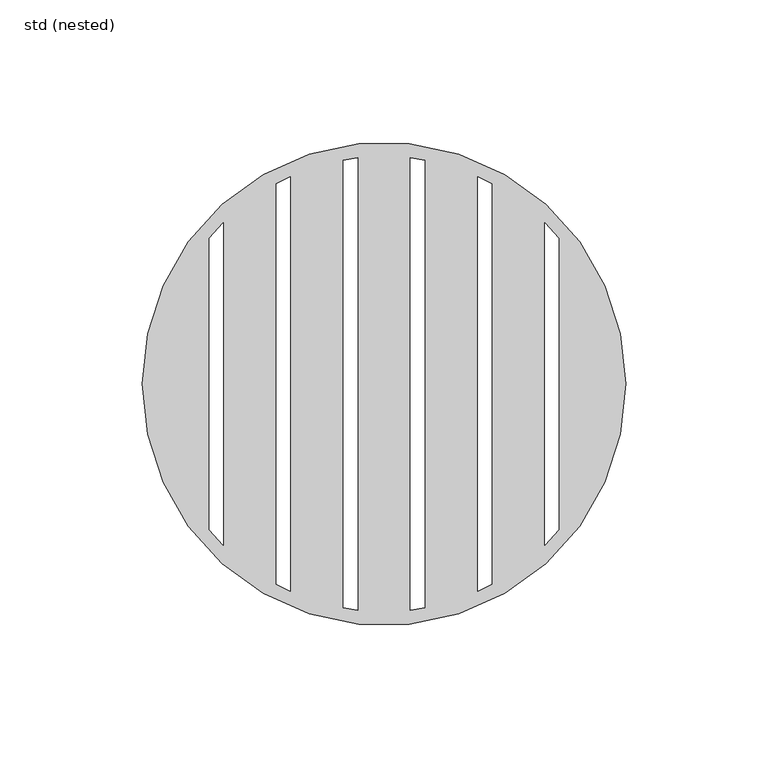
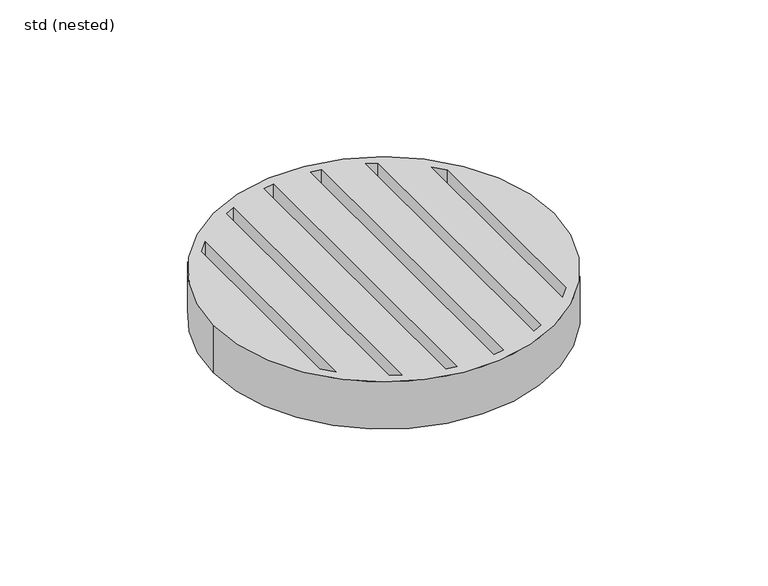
"""IFC4 building model written with IfcOpenShell, lengths in millimetres: sanitary terminal geometry, ZZZ_do not use_PF_ST_UN_round grating for vinyl top_ACO : std (nested)."""

import ifcopenshell
import ifcopenshell.guid

model = None  # the IFC model being written
_history = None  # IfcOwnerHistory: only IFC2X3 demands one
_inside = {}  # id of a spatial element -> (the spatial element, [elements in it])
_under = {}  # id of a project, library or spatial element -> (it, [spatial elements below it])
_declared = {}  # id of a project -> (the project, [libraries it declares])
_typed = {}  # id of a type object -> (the type object, [elements of that type])
_made_of = {}  # id of a material, layer set ... -> (it, [elements and type objects made of it])


def new_model(schema):
    """Start an empty IFC model of exactly this schema.

    Asked for "IFC4X3", IfcOpenShell would pick the latest addendum, in which some entities
    have other attributes; the version numbers below select the first issue.
    IFC2X3 requires an IfcOwnerHistory on every rooted entity: one is made here for all.
    """
    global model, _history
    if schema == "IFC4X3":
        model = ifcopenshell.file(schema_version=(4, 3, 0, 0))
    else:
        model = ifcopenshell.file(schema=schema)
    _inside.clear()
    _under.clear()
    _declared.clear()
    _typed.clear()
    _made_of.clear()
    _history = None
    if model.schema == "IFC2X3":
        org = make("IfcOrganization", Name="unknown")
        user = make(
            "IfcPersonAndOrganization",
            ThePerson=make("IfcPerson", FamilyName="unknown"),
            TheOrganization=org,
        )
        app = make(
            "IfcApplication",
            ApplicationDeveloper=org,
            Version="unknown",
            ApplicationFullName="unknown",
            ApplicationIdentifier="unknown",
        )
        _history = make(
            "IfcOwnerHistory",
            OwningUser=user,
            OwningApplication=app,
            ChangeAction="ADDED",
            CreationDate=0,
        )
    return model


def make(cls, **values):
    """One entity of the class cls with the attributes given. An attribute that is None is left unset."""
    return model.create_entity(
        cls, **{name: value for name, value in values.items() if value is not None}
    )


def rooted(cls, **values):
    """An entity with a GlobalId (a new one), such as an element, a storey or a relation."""
    return make(cls, GlobalId=ifcopenshell.guid.new(), OwnerHistory=_history, **values)


def si_unit(unit_type, name, prefix=None):
    """IfcSIUnit, for example si_unit("LENGTHUNIT", "METRE", prefix="MILLI")."""
    return make("IfcSIUnit", UnitType=unit_type, Prefix=prefix, Name=name)


def assignment(units):
    """IfcUnitAssignment: the units of a project."""
    return None if units is None else make("IfcUnitAssignment", Units=units)


def point(xyz):
    """IfcCartesianPoint."""
    return None if xyz is None else make("IfcCartesianPoint", Coordinates=xyz)


def direction(xyz):
    """IfcDirection."""
    return None if xyz is None else make("IfcDirection", DirectionRatios=xyz)


def frame(location, z_axis=None, x_axis=None):
    """IfcAxis2Placement3D, a coordinate frame: its origin and axes. An axis left out is left unset."""
    return make(
        "IfcAxis2Placement3D",
        Location=point(location),
        Axis=direction(z_axis),
        RefDirection=direction(x_axis),
    )


def frame_2d(location, x_axis=None):
    """IfcAxis2Placement2D, a coordinate frame in the plane: its origin and x axis."""
    return make(
        "IfcAxis2Placement2D", Location=point(location), RefDirection=direction(x_axis)
    )


def origin():
    """The frame at (0, 0, 0) with its axes left unset."""
    return frame((0.0, 0.0, 0.0))


def origin_2d():
    """The frame at (0, 0) in the plane with its x axis left unset."""
    return frame_2d((0.0, 0.0))


def place(relative_to, where):
    """IfcLocalPlacement: puts the frame where relative to a parent placement (None: the world)."""
    return make(
        "IfcLocalPlacement", PlacementRelTo=relative_to, RelativePlacement=where
    )


def context(
    kind, dimensions, precision=None, world=None, true_north=None, identifier=None
):
    """IfcGeometricRepresentationContext, for example the 3D "Model" context."""
    return make(
        "IfcGeometricRepresentationContext",
        ContextIdentifier=identifier,
        ContextType=kind,
        CoordinateSpaceDimension=dimensions,
        Precision=precision,
        WorldCoordinateSystem=world,
        TrueNorth=true_north,
    )


def project(units=None, contexts=None):
    """IfcProject with its units and contexts."""
    return rooted(
        "IfcProject",
        Name="project",
        RepresentationContexts=contexts,
        UnitsInContext=assignment(units),
    )


def spatial(cls, under=None, at=None, **own):
    """A site, building, storey or space (cls), placed at a placement, below another one or the project."""
    s = rooted(cls, ObjectPlacement=at, **own)
    if under is not None:
        _under.setdefault(under.id(), (under, []))[1].append(s)
    return s


def polyline(points):
    """IfcPolyline through the points."""
    return make("IfcPolyline", Points=[point(p) for p in points])


def circle_curve(where, radius):
    """IfcCircle in the frame where."""
    return make("IfcCircle", Position=where, Radius=radius)


def trimmed(basis, trim1, trim2, sense, master):
    """IfcTrimmedCurve: the piece of a basis curve between two trims."""
    return make(
        "IfcTrimmedCurve",
        BasisCurve=basis,
        Trim1=trim1,
        Trim2=trim2,
        SenseAgreement=sense,
        MasterRepresentation=master,
    )


def segment(curve, same_sense, transition):
    """IfcCompositeCurveSegment."""
    return make(
        "IfcCompositeCurveSegment",
        Transition=transition,
        SameSense=same_sense,
        ParentCurve=curve,
    )


def composite_curve(segments, self_intersect=None):
    """IfcCompositeCurve: segments joined end to end."""
    return make("IfcCompositeCurve", Segments=segments, SelfIntersect=self_intersect)


def outline(outer, holes=None, kind="AREA"):
    """IfcArbitraryClosedProfileDef: a profile drawn as a closed curve; with holes, ...WithVoids."""
    if holes is None:
        return make("IfcArbitraryClosedProfileDef", ProfileType=kind, OuterCurve=outer)
    return make(
        "IfcArbitraryProfileDefWithVoids",
        ProfileType=kind,
        OuterCurve=outer,
        InnerCurves=holes,
    )


def extrude(swept, where, along, depth):
    """IfcExtrudedAreaSolid: the profile swept, set in the frame where, extruded along a direction by depth."""
    return make(
        "IfcExtrudedAreaSolid",
        SweptArea=swept,
        Position=where,
        ExtrudedDirection=direction(along),
        Depth=depth,
    )


def shape(context_of_items, identifier, shape_type, items):
    """IfcShapeRepresentation: the items that make up one representation, for example the "Body"."""
    return make(
        "IfcShapeRepresentation",
        ContextOfItems=context_of_items,
        RepresentationIdentifier=identifier,
        RepresentationType=shape_type,
        Items=items,
    )


def source(mapping_origin, context_of_items, identifier, shape_type, items):
    """IfcRepresentationMap: a shape defined once, which mapped items show again and again."""
    return make(
        "IfcRepresentationMap",
        MappingOrigin=mapping_origin,
        MappedRepresentation=shape(context_of_items, identifier, shape_type, items),
    )


def transform(
    local_origin,
    x_axis=None,
    y_axis=None,
    z_axis=None,
    scale=None,
    scale2=None,
    scale3=None,
    uniform=True,
):
    """IfcCartesianTransformationOperator3D, or its non-uniform kind. x_axis, y_axis, z_axis: its Axis1, 2, 3."""
    if uniform:
        return make(
            "IfcCartesianTransformationOperator3D",
            Axis1=direction(x_axis),
            Axis2=direction(y_axis),
            LocalOrigin=point(local_origin),
            Scale=scale,
            Axis3=direction(z_axis),
        )
    return make(
        "IfcCartesianTransformationOperator3DnonUniform",
        Axis1=direction(x_axis),
        Axis2=direction(y_axis),
        LocalOrigin=point(local_origin),
        Scale=scale,
        Axis3=direction(z_axis),
        Scale2=scale2,
        Scale3=scale3,
    )


def mapped(mapping_source, mapping_target):
    """IfcMappedItem: shows the shape of a source again, moved by a transform."""
    return make(
        "IfcMappedItem", MappingSource=mapping_source, MappingTarget=mapping_target
    )


def made_of(thing, what):
    """Note that an element or type object is made of a material, layer set ...; save() writes the relation."""
    if what is not None:
        _made_of.setdefault(what.id(), (what, []))[1].append(thing)
    return thing


def element(
    cls,
    number,
    at=None,
    inside=None,
    cuts=None,
    type_object=None,
    material=None,
    context=None,
    identifier="Body",
    shape_type=None,
    held_by="IfcProductDefinitionShape",
    body=None,
    shapes=None,
    **own,
):
    """One element of the class cls, such as IfcWall. Its Tag is "e" and its number.

    at: its placement. inside: the storey or other place that contains it. cuts: it is an
    opening in that element (IfcRelVoidsElement). A single representation is given by context,
    identifier, shape_type and body (its items); several are given by shapes. held_by: the class
    of the entity that holds the representations. save() writes the other relations.
    """
    e = rooted(cls, Tag="e%d" % number, ObjectPlacement=at, **own)
    if body is not None:
        shapes = [shape(context, identifier, shape_type, body)]
    if shapes is not None:
        e.Representation = make(held_by, Representations=shapes)
    if inside is not None:
        _inside.setdefault(inside.id(), (inside, []))[1].append(e)
    if cuts is not None:
        rooted(
            "IfcRelVoidsElement", RelatingBuildingElement=cuts, RelatedOpeningElement=e
        )
    if type_object is not None:
        _typed.setdefault(type_object.id(), (type_object, []))[1].append(e)
    return made_of(e, material)


def aggregate(whole, parts):
    """IfcRelAggregates: a whole, such as a stair, and the parts it consists of."""
    return rooted("IfcRelAggregates", RelatingObject=whole, RelatedObjects=parts)


def save(model, path):
    """Write the relations noted so far, then the file.

    IfcRelAggregates (storeys below a building ...), IfcRelContainedInSpatialStructure (elements
    in a storey), IfcRelDefinesByType, IfcRelAssociatesMaterial and IfcRelDeclares: one each for
    every whole, place, type object, material and project.
    """
    for whole, parts in _under.values():
        aggregate(whole, parts)
    for where, things in _inside.values():
        rooted(
            "IfcRelContainedInSpatialStructure",
            RelatedElements=things,
            RelatingStructure=where,
        )
    for kind, things in _typed.values():
        rooted("IfcRelDefinesByType", RelatedObjects=things, RelatingType=kind)
    for what, things in _made_of.values():
        rooted("IfcRelAssociatesMaterial", RelatedObjects=things, RelatingMaterial=what)
    for by, libraries in _declared.values():
        rooted("IfcRelDeclares", RelatingContext=by, RelatedDefinitions=libraries)
    model.write(path)


def std_nested_efb698b0(model_context):
    return source(origin(), model_context, "Body", "SweptSolid", [
        extrude(outline(composite_curve([segment(trimmed(circle_curve(origin_2d(), 85.0), [point((-85.0, 0.0))], [point((85.0, 0.0))], False, "CARTESIAN"), True, "CONTINUOUS"), segment(trimmed(circle_curve(origin_2d(), 85.0), [point((85.0, 0.0))], [point((-85.0, 0.0))], False, "CARTESIAN"), True, "CONTINUOUS")], self_intersect=False), holes=[composite_curve([segment(polyline([(56.5, 56.637002), (56.5, -56.637002)]), True, "CONTINUOUS"), segment(trimmed(circle_curve(origin_2d(), 80.0), [point((56.5, -56.637002))], [point((61.5, -51.1639522))], True, "CARTESIAN"), True, "CONTINUOUS"), segment(polyline([(61.5, -51.1639522), (61.5, 51.1639522)]), True, "CONTINUOUS"), segment(trimmed(circle_curve(origin_2d(), 80.0), [point((61.5, 51.1639522))], [point((56.5, 56.637002))], True, "CARTESIAN"), True, "CONTINUOUS")], self_intersect=False), composite_curve([segment(polyline([(32.9, 72.9218074), (32.9, -72.9218074)]), True, "CONTINUOUS"), segment(trimmed(circle_curve(origin_2d(), 80.0), [point((32.9, -72.9218074))], [point((37.9, -70.4527501))], True, "CARTESIAN"), True, "CONTINUOUS"), segment(polyline([(37.9, -70.4527501), (37.9, 70.4527501)]), True, "CONTINUOUS"), segment(trimmed(circle_curve(origin_2d(), 80.0), [point((37.9, 70.4527501))], [point((32.9, 72.9218074))], True, "CARTESIAN"), True, "CONTINUOUS")], self_intersect=False), composite_curve([segment(polyline([(9.3, 79.4575988), (9.3, -79.4575988)]), True, "CONTINUOUS"), segment(trimmed(circle_curve(origin_2d(), 80.0), [point((9.3, -79.4575988))], [point((14.3, -78.711562))], True, "CARTESIAN"), True, "CONTINUOUS"), segment(polyline([(14.3, -78.711562), (14.3, 78.711562)]), True, "CONTINUOUS"), segment(trimmed(circle_curve(origin_2d(), 80.0), [point((14.3, 78.711562))], [point((9.3, 79.4575988))], True, "CARTESIAN"), True, "CONTINUOUS")], self_intersect=False), composite_curve([segment(polyline([(-14.3, 78.711562), (-14.3, -78.711562)]), True, "CONTINUOUS"), segment(trimmed(circle_curve(origin_2d(), 80.0), [point((-14.3, -78.711562))], [point((-9.3, -79.4575988))], True, "CARTESIAN"), True, "CONTINUOUS"), segment(polyline([(-9.3, -79.4575988), (-9.3, 79.4575988)]), True, "CONTINUOUS"), segment(trimmed(circle_curve(origin_2d(), 80.0), [point((-9.3, 79.4575988))], [point((-14.3, 78.711562))], True, "CARTESIAN"), True, "CONTINUOUS")], self_intersect=False), composite_curve([segment(polyline([(-37.9, 70.4527501), (-37.9, -70.4527501)]), True, "CONTINUOUS"), segment(trimmed(circle_curve(origin_2d(), 80.0), [point((-37.9, -70.4527501))], [point((-32.9, -72.9218074))], True, "CARTESIAN"), True, "CONTINUOUS"), segment(polyline([(-32.9, -72.9218074), (-32.9, 72.9218074)]), True, "CONTINUOUS"), segment(trimmed(circle_curve(origin_2d(), 80.0), [point((-32.9, 72.9218074))], [point((-37.9, 70.4527501))], True, "CARTESIAN"), True, "CONTINUOUS")], self_intersect=False), composite_curve([segment(polyline([(-61.5, 51.1639522), (-61.5, -51.1639522)]), True, "CONTINUOUS"), segment(trimmed(circle_curve(origin_2d(), 80.0), [point((-61.5, -51.1639522))], [point((-56.5, -56.637002))], True, "CARTESIAN"), True, "CONTINUOUS"), segment(polyline([(-56.5, -56.637002), (-56.5, 56.637002)]), True, "CONTINUOUS"), segment(trimmed(circle_curve(origin_2d(), 80.0), [point((-56.5, 56.637002))], [point((-61.5, 51.1639522))], True, "CARTESIAN"), True, "CONTINUOUS")], self_intersect=False)]), frame((0.0, 0.0, -25.0), z_axis=(0.0, 0.0, 1.0), x_axis=(1.0, 0.0, 0.0)), (0.0, 0.0, 1.0), 25.0),
    ])


if __name__ == "__main__":
    model = new_model("IFC4")
    model_context = context("Model", 3, world=origin())
    ifc_project = project(units=[si_unit("LENGTHUNIT", "METRE", prefix="MILLI")], contexts=[model_context])
    site = spatial("IfcSite", under=ifc_project)
    building = spatial("IfcBuilding", under=site)
    placement = place(None, origin())
    std_nested_shape = std_nested_efb698b0(model_context)
    element("IfcSanitaryTerminal", 1, ObjectType="ZZZ_do not use_PF_ST_UN_round grating for vinyl top_ACO : std (nested)", at=placement, inside=building, context=model_context, shape_type="MappedRepresentation", body=[
        mapped(std_nested_shape, transform((0.0, 0.0, 0.0), x_axis=(1.0, 0.0, 0.0), y_axis=(0.0, 1.0, 0.0), z_axis=(0.0, 0.0, 1.0))),
    ])
    save(model, "model.ifc")
